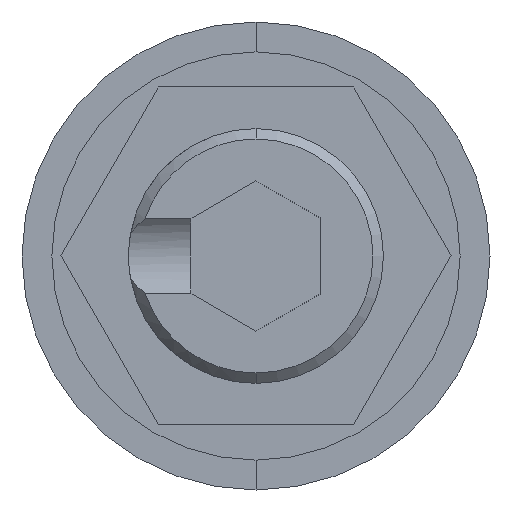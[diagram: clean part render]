
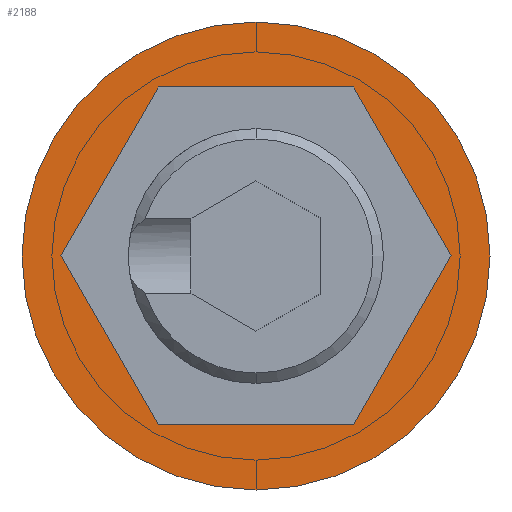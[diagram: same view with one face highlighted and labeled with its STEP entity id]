
A CAD part, front view. The second image highlights one B-rep face of the part: STEP entity #2188.
In plain terms, the highlighted planar face has unit normal (0, -1, 0).
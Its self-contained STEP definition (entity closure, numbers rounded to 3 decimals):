
#15 = CARTESIAN_POINT ( 'NONE',  ( 1.876, 0., -3.25 ) ) ;
#51 = ORIENTED_EDGE ( 'NONE', *, *, #432, .T. ) ;
#60 = DIRECTION ( 'NONE',  ( 0.5, 0., 0.866 ) ) ;
#65 = EDGE_CURVE ( 'NONE', #220, #1482, #307, .T. ) ;
#80 = ORIENTED_EDGE ( 'NONE', *, *, #1998, .F. ) ;
#99 = CIRCLE ( 'NONE', #1703, 4.5 ) ;
#142 = LINE ( 'NONE', #15, #542 ) ;
#146 = LINE ( 'NONE', #982, #1967 ) ;
#195 = ORIENTED_EDGE ( 'NONE', *, *, #1891, .F. ) ;
#220 = VERTEX_POINT ( 'NONE', #847 ) ;
#302 = VERTEX_POINT ( 'NONE', #944 ) ;
#307 = LINE ( 'NONE', #579, #784 ) ;
#325 = EDGE_CURVE ( 'NONE', #2141, #1630, #2048, .T. ) ;
#334 = CARTESIAN_POINT ( 'NONE',  ( 3.753, 0., 0. ) ) ;
#373 = ORIENTED_EDGE ( 'NONE', *, *, #953, .F. ) ;
#387 = VERTEX_POINT ( 'NONE', #1068 ) ;
#416 = VECTOR ( 'NONE', #616, 1000. ) ;
#420 = ORIENTED_EDGE ( 'NONE', *, *, #65, .F. ) ;
#432 = EDGE_CURVE ( 'NONE', #1335, #302, #843, .T. ) ;
#446 = CARTESIAN_POINT ( 'NONE',  ( 0., 0., -4.5 ) ) ;
#542 = VECTOR ( 'NONE', #60, 1000. ) ;
#579 = CARTESIAN_POINT ( 'NONE',  ( -1.876, 0., 3.25 ) ) ;
#601 = DIRECTION ( 'NONE',  ( -0.5, 0., -0.866 ) ) ;
#616 = DIRECTION ( 'NONE',  ( -0.5, 0., 0.866 ) ) ;
#624 = FACE_OUTER_BOUND ( 'NONE', #1613, .T. ) ;
#640 = CARTESIAN_POINT ( 'NONE',  ( -1.876, 0., -3.25 ) ) ;
#666 = VERTEX_POINT ( 'NONE', #1378 ) ;
#687 = VECTOR ( 'NONE', #1704, 1000. ) ;
#738 = LINE ( 'NONE', #1697, #687 ) ;
#784 = VECTOR ( 'NONE', #601, 1000. ) ;
#792 = VECTOR ( 'NONE', #963, 1000. ) ;
#843 = CIRCLE ( 'NONE', #1825, 4.5 ) ;
#847 = CARTESIAN_POINT ( 'NONE',  ( -1.876, 0., 3.25 ) ) ;
#944 = CARTESIAN_POINT ( 'NONE',  ( 0., 0., 4.5 ) ) ;
#953 = EDGE_CURVE ( 'NONE', #387, #220, #738, .T. ) ;
#963 = DIRECTION ( 'NONE',  ( 1., 0., 0. ) ) ;
#978 = CARTESIAN_POINT ( 'NONE',  ( -3.753, 0., 0. ) ) ;
#982 = CARTESIAN_POINT ( 'NONE',  ( -3.753, 0., 0. ) ) ;
#992 = DIRECTION ( 'NONE',  ( 0.5, 0., -0.866 ) ) ;
#996 = CARTESIAN_POINT ( 'NONE',  ( -1.876, 0., -3.25 ) ) ;
#1059 = PLANE ( 'NONE',  #2046 ) ;
#1068 = CARTESIAN_POINT ( 'NONE',  ( 1.876, 0., 3.25 ) ) ;
#1071 = ORIENTED_EDGE ( 'NONE', *, *, #1465, .F. ) ;
#1109 = ORIENTED_EDGE ( 'NONE', *, *, #325, .F. ) ;
#1152 = CARTESIAN_POINT ( 'NONE',  ( 0., 0., 0. ) ) ;
#1153 = DIRECTION ( 'NONE',  ( 0., -1., 0. ) ) ;
#1157 = DIRECTION ( 'NONE',  ( 0., 0., -1. ) ) ;
#1227 = LINE ( 'NONE', #334, #416 ) ;
#1275 = DIRECTION ( 'NONE',  ( 0., -1., 0. ) ) ;
#1335 = VERTEX_POINT ( 'NONE', #446 ) ;
#1356 = DIRECTION ( 'NONE',  ( 0., -1., 0. ) ) ;
#1378 = CARTESIAN_POINT ( 'NONE',  ( 3.753, 0., 0. ) ) ;
#1395 = ORIENTED_EDGE ( 'NONE', *, *, #2189, .T. ) ;
#1465 = EDGE_CURVE ( 'NONE', #1482, #2141, #146, .T. ) ;
#1482 = VERTEX_POINT ( 'NONE', #978 ) ;
#1613 = EDGE_LOOP ( 'NONE', ( #51, #1395 ) ) ;
#1630 = VERTEX_POINT ( 'NONE', #1757 ) ;
#1697 = CARTESIAN_POINT ( 'NONE',  ( 1.876, 0., 3.25 ) ) ;
#1702 = EDGE_LOOP ( 'NONE', ( #1109, #1071, #420, #373, #195, #80 ) ) ;
#1703 = AXIS2_PLACEMENT_3D ( 'NONE', #2027, #1356, #2236 ) ;
#1704 = DIRECTION ( 'NONE',  ( -1., 0., 0. ) ) ;
#1757 = CARTESIAN_POINT ( 'NONE',  ( 1.876, 0., -3.25 ) ) ;
#1825 = AXIS2_PLACEMENT_3D ( 'NONE', #1152, #1153, #1157 ) ;
#1891 = EDGE_CURVE ( 'NONE', #666, #387, #1227, .T. ) ;
#1967 = VECTOR ( 'NONE', #992, 1000. ) ;
#1998 = EDGE_CURVE ( 'NONE', #1630, #666, #142, .T. ) ;
#2027 = CARTESIAN_POINT ( 'NONE',  ( 0., 0., 0. ) ) ;
#2046 = AXIS2_PLACEMENT_3D ( 'NONE', #2089, #1275, #2246 ) ;
#2048 = LINE ( 'NONE', #996, #792 ) ;
#2089 = CARTESIAN_POINT ( 'NONE',  ( 0., 0., 0. ) ) ;
#2114 = FACE_BOUND ( 'NONE', #1702, .T. ) ;
#2141 = VERTEX_POINT ( 'NONE', #640 ) ;
#2188 = ADVANCED_FACE ( 'NONE', ( #2114, #624 ), #1059, .T. ) ;
#2189 = EDGE_CURVE ( 'NONE', #302, #1335, #99, .T. ) ;
#2236 = DIRECTION ( 'NONE',  ( 0., 0., -1. ) ) ;
#2246 = DIRECTION ( 'NONE',  ( 0., 0., -1. ) ) ;
